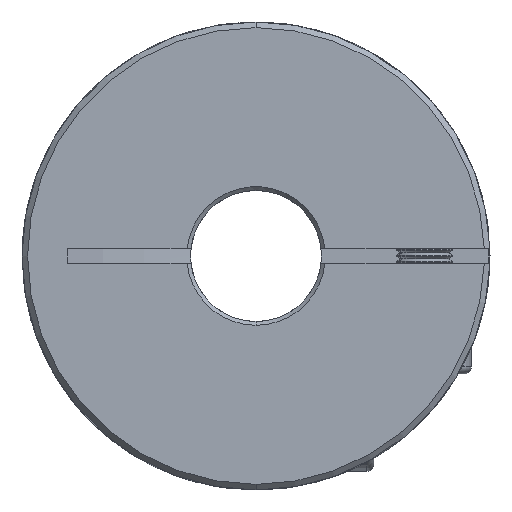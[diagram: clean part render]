
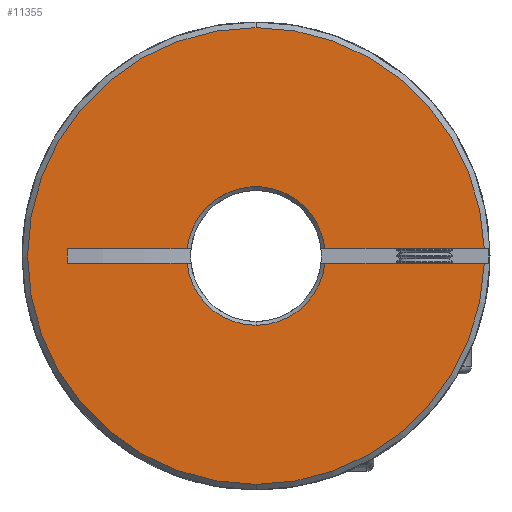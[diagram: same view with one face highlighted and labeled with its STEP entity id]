
A CAD part, front view. The second image highlights one B-rep face of the part: STEP entity #11355.
In plain terms, the highlighted planar face has unit normal (0, -1, 0).
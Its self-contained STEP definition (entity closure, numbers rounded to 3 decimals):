
#115 = AXIS2_PLACEMENT_3D ( 'NONE', #1637, #11094, #16484 ) ;
#641 = AXIS2_PLACEMENT_3D ( 'NONE', #14251, #9088, #8863 ) ;
#668 = ORIENTED_EDGE ( 'NONE', *, *, #7721, .T. ) ;
#1157 = CARTESIAN_POINT ( 'NONE',  ( 0., 0., 0. ) ) ;
#1318 = CARTESIAN_POINT ( 'NONE',  ( -50., 0., 0.75 ) ) ;
#1323 = VECTOR ( 'NONE', #7342, 1000. ) ;
#1404 = CIRCLE ( 'NONE', #12238, 24.4 ) ;
#1454 = PLANE ( 'NONE',  #115 ) ;
#1471 = VERTEX_POINT ( 'NONE', #16252 ) ;
#1637 = CARTESIAN_POINT ( 'NONE',  ( -50., 0., 32.858 ) ) ;
#1715 = FACE_OUTER_BOUND ( 'NONE', #4321, .T. ) ;
#2081 = CARTESIAN_POINT ( 'NONE',  ( -50., 0., -0.75 ) ) ;
#2148 = ORIENTED_EDGE ( 'NONE', *, *, #3934, .T. ) ;
#2482 = DIRECTION ( 'NONE',  ( 0., 1., 0. ) ) ;
#2767 = LINE ( 'NONE', #13634, #13920 ) ;
#2824 = EDGE_CURVE ( 'NONE', #14000, #9976, #10423, .T. ) ;
#2999 = EDGE_CURVE ( 'NONE', #10788, #13927, #14583, .T. ) ;
#3241 = EDGE_CURVE ( 'NONE', #10788, #9665, #15648, .T. ) ;
#3934 = EDGE_CURVE ( 'NONE', #9976, #13222, #5328, .T. ) ;
#4321 = EDGE_LOOP ( 'NONE', ( #8571, #8669, #10164, #7589, #7208, #8120, #2148, #6448, #14700, #15176, #668 ) ) ;
#4690 = AXIS2_PLACEMENT_3D ( 'NONE', #6964, #11056, #16325 ) ;
#5328 = CIRCLE ( 'NONE', #8269, 7.4 ) ;
#5573 = VECTOR ( 'NONE', #16165, 1000. ) ;
#5679 = CARTESIAN_POINT ( 'NONE',  ( 0., 0., 24.4 ) ) ;
#6205 = DIRECTION ( 'NONE',  ( 1., 0., 0. ) ) ;
#6222 = DIRECTION ( 'NONE',  ( 0., -1., 0. ) ) ;
#6402 = DIRECTION ( 'NONE',  ( 0., 0., 1. ) ) ;
#6442 = CIRCLE ( 'NONE', #4690, 24.4 ) ;
#6448 = ORIENTED_EDGE ( 'NONE', *, *, #11766, .T. ) ;
#6964 = CARTESIAN_POINT ( 'NONE',  ( 0., 0., 0. ) ) ;
#7208 = ORIENTED_EDGE ( 'NONE', *, *, #9058, .T. ) ;
#7338 = CARTESIAN_POINT ( 'NONE',  ( 7.362, 0., -0.75 ) ) ;
#7342 = DIRECTION ( 'NONE',  ( 1., 0., 0. ) ) ;
#7589 = ORIENTED_EDGE ( 'NONE', *, *, #13625, .F. ) ;
#7665 = VERTEX_POINT ( 'NONE', #14002 ) ;
#7721 = EDGE_CURVE ( 'NONE', #15826, #13927, #1404, .T. ) ;
#7869 = CARTESIAN_POINT ( 'NONE',  ( 0., 0., 0. ) ) ;
#8085 = VERTEX_POINT ( 'NONE', #10114 ) ;
#8120 = ORIENTED_EDGE ( 'NONE', *, *, #2824, .T. ) ;
#8163 = VECTOR ( 'NONE', #9867, 1000. ) ;
#8269 = AXIS2_PLACEMENT_3D ( 'NONE', #14523, #9018, #14415 ) ;
#8392 = EDGE_CURVE ( 'NONE', #9509, #15826, #6442, .T. ) ;
#8562 = CARTESIAN_POINT ( 'NONE',  ( 0., 0., -24.4 ) ) ;
#8571 = ORIENTED_EDGE ( 'NONE', *, *, #2999, .F. ) ;
#8669 = ORIENTED_EDGE ( 'NONE', *, *, #3241, .T. ) ;
#8863 = DIRECTION ( 'NONE',  ( 0., 0., 1. ) ) ;
#9018 = DIRECTION ( 'NONE',  ( 0., 1., 0. ) ) ;
#9058 = EDGE_CURVE ( 'NONE', #8085, #14000, #11718, .T. ) ;
#9088 = DIRECTION ( 'NONE',  ( 0., -1., 0. ) ) ;
#9333 = AXIS2_PLACEMENT_3D ( 'NONE', #1157, #11769, #10491 ) ;
#9509 = VERTEX_POINT ( 'NONE', #5679 ) ;
#9547 = CARTESIAN_POINT ( 'NONE',  ( -20.149, 0., 0.75 ) ) ;
#9637 = DIRECTION ( 'NONE',  ( 1., 0., 0. ) ) ;
#9665 = VERTEX_POINT ( 'NONE', #11605 ) ;
#9867 = DIRECTION ( 'NONE',  ( 0., 0., 1. ) ) ;
#9976 = VERTEX_POINT ( 'NONE', #11953 ) ;
#10114 = CARTESIAN_POINT ( 'NONE',  ( -20.149, 0., -0.75 ) ) ;
#10164 = ORIENTED_EDGE ( 'NONE', *, *, #16430, .T. ) ;
#10423 = LINE ( 'NONE', #1318, #5573 ) ;
#10491 = DIRECTION ( 'NONE',  ( 0., 0., 1. ) ) ;
#10788 = VERTEX_POINT ( 'NONE', #7338 ) ;
#10894 = EDGE_CURVE ( 'NONE', #1471, #9509, #16263, .T. ) ;
#11056 = DIRECTION ( 'NONE',  ( 0., -1., 0. ) ) ;
#11094 = DIRECTION ( 'NONE',  ( 0., 1., 0. ) ) ;
#11355 = ADVANCED_FACE ( 'NONE', ( #1715 ), #1454, .F. ) ;
#11605 = CARTESIAN_POINT ( 'NONE',  ( 0., 0., -7.4 ) ) ;
#11718 = LINE ( 'NONE', #13906, #8163 ) ;
#11766 = EDGE_CURVE ( 'NONE', #13222, #1471, #2767, .T. ) ;
#11769 = DIRECTION ( 'NONE',  ( 0., 1., 0. ) ) ;
#11812 = AXIS2_PLACEMENT_3D ( 'NONE', #7869, #2482, #15016 ) ;
#11953 = CARTESIAN_POINT ( 'NONE',  ( -7.362, 0., 0.75 ) ) ;
#12215 = LINE ( 'NONE', #2081, #13878 ) ;
#12238 = AXIS2_PLACEMENT_3D ( 'NONE', #12936, #6222, #6402 ) ;
#12936 = CARTESIAN_POINT ( 'NONE',  ( 0., 0., 0. ) ) ;
#13222 = VERTEX_POINT ( 'NONE', #14577 ) ;
#13625 = EDGE_CURVE ( 'NONE', #8085, #7665, #12215, .T. ) ;
#13634 = CARTESIAN_POINT ( 'NONE',  ( -50., 0., 0.75 ) ) ;
#13878 = VECTOR ( 'NONE', #6205, 1000. ) ;
#13906 = CARTESIAN_POINT ( 'NONE',  ( -20.149, 0., -0.75 ) ) ;
#13920 = VECTOR ( 'NONE', #9637, 1000. ) ;
#13927 = VERTEX_POINT ( 'NONE', #14660 ) ;
#13973 = CARTESIAN_POINT ( 'NONE',  ( -50., 0., -0.75 ) ) ;
#14000 = VERTEX_POINT ( 'NONE', #9547 ) ;
#14002 = CARTESIAN_POINT ( 'NONE',  ( -7.362, 0., -0.75 ) ) ;
#14251 = CARTESIAN_POINT ( 'NONE',  ( 0., 0., 0. ) ) ;
#14415 = DIRECTION ( 'NONE',  ( 0., 0., 1. ) ) ;
#14523 = CARTESIAN_POINT ( 'NONE',  ( 0., 0., 0. ) ) ;
#14577 = CARTESIAN_POINT ( 'NONE',  ( 7.362, 0., 0.75 ) ) ;
#14583 = LINE ( 'NONE', #13973, #1323 ) ;
#14660 = CARTESIAN_POINT ( 'NONE',  ( 24.388, 0., -0.75 ) ) ;
#14700 = ORIENTED_EDGE ( 'NONE', *, *, #10894, .T. ) ;
#14714 = CIRCLE ( 'NONE', #9333, 7.4 ) ;
#15016 = DIRECTION ( 'NONE',  ( 0., 0., 1. ) ) ;
#15176 = ORIENTED_EDGE ( 'NONE', *, *, #8392, .T. ) ;
#15648 = CIRCLE ( 'NONE', #11812, 7.4 ) ;
#15826 = VERTEX_POINT ( 'NONE', #8562 ) ;
#16165 = DIRECTION ( 'NONE',  ( 1., 0., 0. ) ) ;
#16252 = CARTESIAN_POINT ( 'NONE',  ( 24.388, 0., 0.75 ) ) ;
#16263 = CIRCLE ( 'NONE', #641, 24.4 ) ;
#16325 = DIRECTION ( 'NONE',  ( 0., 0., 1. ) ) ;
#16430 = EDGE_CURVE ( 'NONE', #9665, #7665, #14714, .T. ) ;
#16484 = DIRECTION ( 'NONE',  ( 0., 0., 1. ) ) ;
